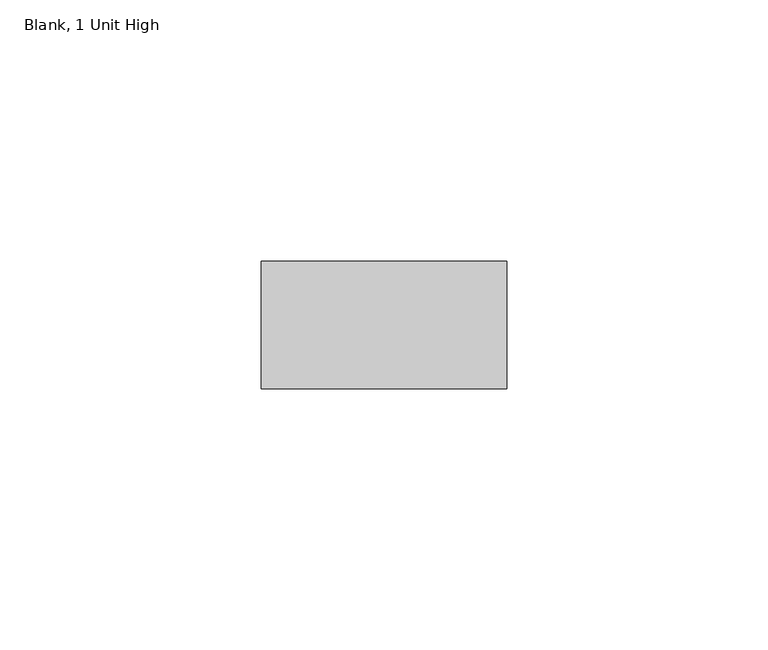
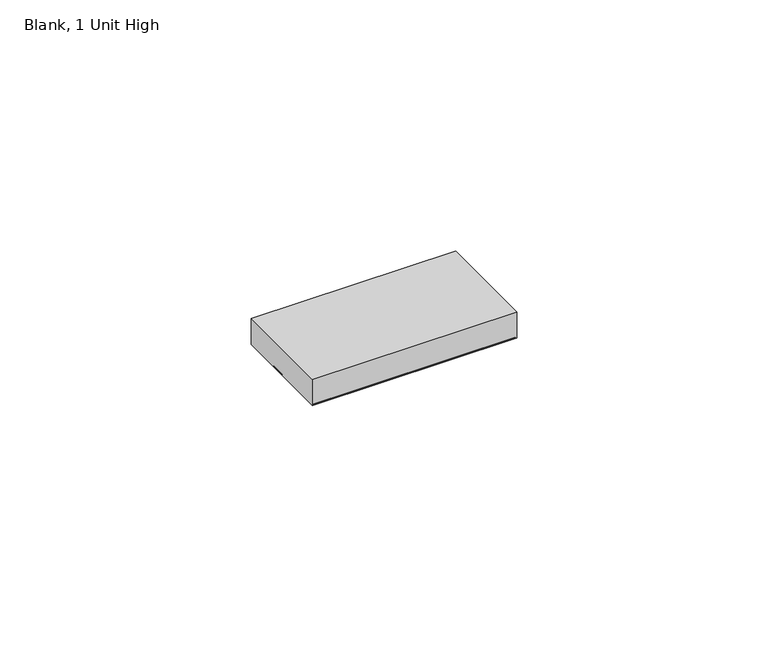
"""IFC4 building model written with IfcOpenShell, lengths in millimetres: electric appliance geometry, Data_Device-Work_Area-Leviton-MOS-Adapter-QuickPort : Blank, 1 Unit High."""

from ifc_helpers import new_model, si_unit, frame, origin, place, context, project, spatial, polyline, outline, extrude, source, transform, mapped, element, save


def blank_1_unit_high_9cb51643(model_context):
    return source(origin(), model_context, "Body", "SweptSolid", [
        extrude(outline(polyline([(0.2159, 20.1295), (0.2159, -3.7465), (-46.2661, -3.7465), (-46.2661, 20.1295), (0.2159, 20.1295)])), frame((0.0, 0.0, -6.35), z_axis=(0.0, 0.0, 1.0), x_axis=(1.0, 0.0, 0.0)), (0.0, 0.0, 1.0), 0.254),
        extrude(outline(polyline([(0.4699, 20.3835), (0.4699, -4.0005), (-46.5201, -4.0005), (-46.5201, 20.3835), (0.4699, 20.3835)])), frame((0.0, 0.0, -6.096), z_axis=(0.0, 0.0, 1.0), x_axis=(1.0, 0.0, 0.0)), (0.0, 0.0, 1.0), 6.35),
    ])


if __name__ == "__main__":
    model = new_model("IFC4")
    model_context = context("Model", 3, world=origin())
    ifc_project = project(units=[si_unit("LENGTHUNIT", "METRE", prefix="MILLI")], contexts=[model_context])
    site = spatial("IfcSite", under=ifc_project)
    building = spatial("IfcBuilding", under=site)
    placement = place(None, origin())
    blank_1_unit_high_shape = blank_1_unit_high_9cb51643(model_context)
    element("IfcElectricAppliance", 1, ObjectType="Data_Device-Work_Area-Leviton-MOS-Adapter-QuickPort : Blank, 1 Unit High", at=placement, inside=building, context=model_context, shape_type="MappedRepresentation", body=[
        mapped(blank_1_unit_high_shape, transform((0.0, 0.0, 0.0), x_axis=(1.0, 0.0, 0.0), y_axis=(0.0, 1.0, 0.0), z_axis=(0.0, 0.0, 1.0))),
    ])
    save(model, "model.ifc")
